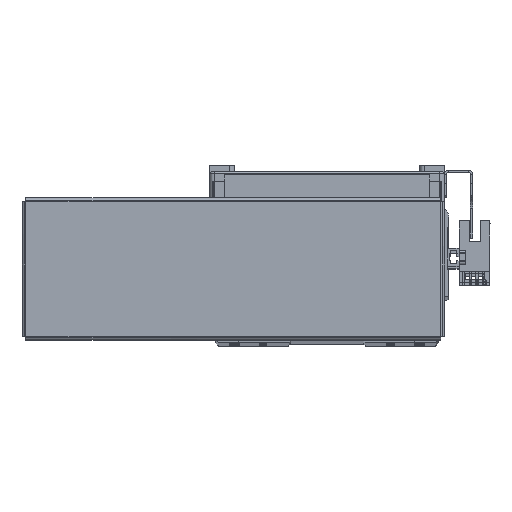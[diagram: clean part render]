
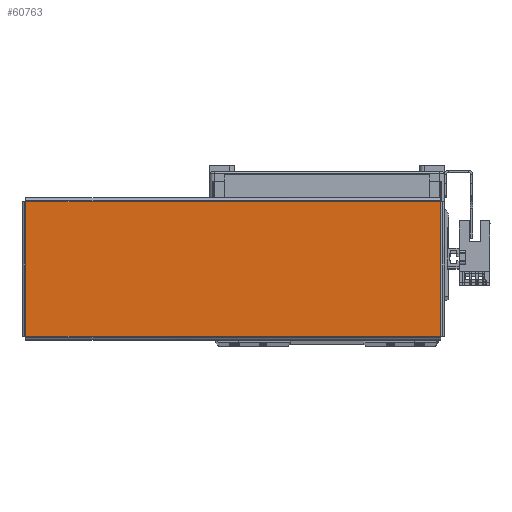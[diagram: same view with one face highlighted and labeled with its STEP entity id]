
A CAD part, top view. The second image highlights one B-rep face of the part: STEP entity #60763.
In plain terms, the highlighted planar face has unit normal (0, 0, 1) as drawn and (0, -1, 0) by its records, which use the part's own axes.
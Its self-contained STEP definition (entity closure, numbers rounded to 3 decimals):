
#333 = FACE_OUTER_BOUND ( 'NONE', #16358, .T. ) ;
#2670 = CARTESIAN_POINT ( 'NONE',  ( 91.863, -1., 29.763 ) ) ;
#2702 = CARTESIAN_POINT ( 'NONE',  ( -91.863, -1., 29.763 ) ) ;
#2796 = CARTESIAN_POINT ( 'NONE',  ( -91.863, -1., -29.763 ) ) ;
#4603 = PLANE ( 'NONE',  #17451 ) ;
#4704 = DIRECTION ( 'NONE',  ( 0., 0., 1. ) ) ;
#4740 = DIRECTION ( 'NONE',  ( 0., 1., 0. ) ) ;
#4772 = CARTESIAN_POINT ( 'NONE',  ( 0., -1., 0. ) ) ;
#6692 = EDGE_CURVE ( 'NONE', #52659, #49247, #35842, .T. ) ;
#6695 = EDGE_CURVE ( 'NONE', #49346, #49358, #21539, .T. ) ;
#6721 = EDGE_CURVE ( 'NONE', #49247, #49346, #21526, .T. ) ;
#6738 = EDGE_CURVE ( 'NONE', #49358, #52659, #21587, .T. ) ;
#16358 = EDGE_LOOP ( 'NONE', ( #23659, #23485, #23717, #23592 ) ) ;
#17451 = AXIS2_PLACEMENT_3D ( 'NONE', #4772, #4740, #4704 ) ;
#21349 = CARTESIAN_POINT ( 'NONE',  ( -91.863, -1., 29.793 ) ) ;
#21353 = DIRECTION ( 'NONE',  ( 0., 0., -1. ) ) ;
#21354 = CARTESIAN_POINT ( 'NONE',  ( 91.863, -1., -29.793 ) ) ;
#21355 = DIRECTION ( 'NONE',  ( 0., 0., 1. ) ) ;
#21441 = CARTESIAN_POINT ( 'NONE',  ( -91.893, -1., -29.763 ) ) ;
#21449 = DIRECTION ( 'NONE',  ( 1., 0., 0. ) ) ;
#21456 = DIRECTION ( 'NONE',  ( -1., 0., 0. ) ) ;
#21466 = CARTESIAN_POINT ( 'NONE',  ( 91.893, -1., 29.763 ) ) ;
#21520 = VECTOR ( 'NONE', #21353, 1000. ) ;
#21526 = LINE ( 'NONE', #21466, #21538 ) ;
#21538 = VECTOR ( 'NONE', #21456, 1000. ) ;
#21539 = LINE ( 'NONE', #21349, #21520 ) ;
#21587 = LINE ( 'NONE', #21441, #21618 ) ;
#21618 = VECTOR ( 'NONE', #21449, 1000. ) ;
#23485 = ORIENTED_EDGE ( 'NONE', *, *, #6692, .T. ) ;
#23592 = ORIENTED_EDGE ( 'NONE', *, *, #6695, .T. ) ;
#23659 = ORIENTED_EDGE ( 'NONE', *, *, #6738, .T. ) ;
#23717 = ORIENTED_EDGE ( 'NONE', *, *, #6721, .T. ) ;
#35842 = LINE ( 'NONE', #21354, #36098 ) ;
#36098 = VECTOR ( 'NONE', #21355, 1000. ) ;
#39591 = CARTESIAN_POINT ( 'NONE',  ( 91.863, -1., -29.763 ) ) ;
#49247 = VERTEX_POINT ( 'NONE', #2670 ) ;
#49346 = VERTEX_POINT ( 'NONE', #2702 ) ;
#49358 = VERTEX_POINT ( 'NONE', #2796 ) ;
#52659 = VERTEX_POINT ( 'NONE', #39591 ) ;
#60763 = ADVANCED_FACE ( 'NONE', ( #333 ), #4603, .F. ) ;
